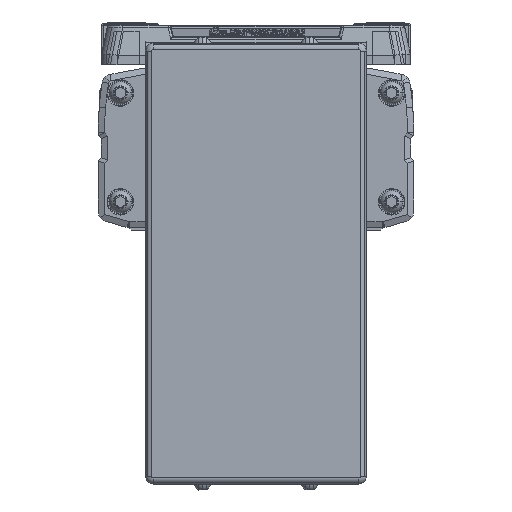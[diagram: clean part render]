
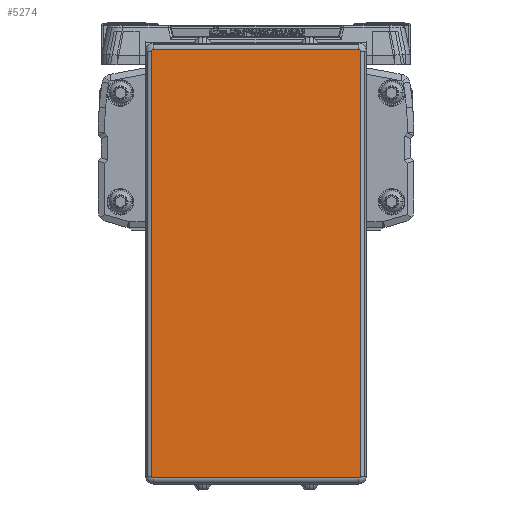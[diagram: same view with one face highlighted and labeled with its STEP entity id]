
A CAD part, left-side view. The second image highlights one B-rep face of the part: STEP entity #5274.
In plain terms, the highlighted planar face has unit normal (-1, 0, 0).
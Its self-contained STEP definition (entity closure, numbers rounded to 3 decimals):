
#5274=ADVANCED_FACE('',(#11322),#11323,.F.);
#11322=FACE_OUTER_BOUND('',#18589,.T.);
#11323=PLANE('',#18590);
#18589=EDGE_LOOP('',(#33726,#33727,#33728,#33729,#33730,#33731,#33732,#33733));
#18590=AXIS2_PLACEMENT_3D('',#33734,#33735,#33736);
#33726=ORIENTED_EDGE('',*,*,#45593,.T.);
#33727=ORIENTED_EDGE('',*,*,#47355,.T.);
#33728=ORIENTED_EDGE('',*,*,#45399,.T.);
#33729=ORIENTED_EDGE('',*,*,#47356,.T.);
#33730=ORIENTED_EDGE('',*,*,#44988,.T.);
#33731=ORIENTED_EDGE('',*,*,#46040,.T.);
#33732=ORIENTED_EDGE('',*,*,#41849,.T.);
#33733=ORIENTED_EDGE('',*,*,#47357,.T.);
#33734=CARTESIAN_POINT('',(-616.0,0.,-41.6));
#33735=DIRECTION('',(1.0,0.,0.));
#33736=DIRECTION('',(0.,0.,1.0));
#41849=EDGE_CURVE('',#50103,#50101,#50104,.T.);
#44988=EDGE_CURVE('',#55272,#55270,#55273,.T.);
#45399=EDGE_CURVE('',#55881,#55879,#55882,.T.);
#45593=EDGE_CURVE('',#56159,#56157,#56160,.T.);
#46040=EDGE_CURVE('',#55270,#50103,#56806,.T.);
#47355=EDGE_CURVE('',#56157,#55881,#58546,.T.);
#47356=EDGE_CURVE('',#55879,#55272,#58547,.T.);
#47357=EDGE_CURVE('',#50101,#56159,#58548,.T.);
#50101=VERTEX_POINT('',#61959);
#50103=VERTEX_POINT('',#61961);
#50104=LINE('',#61962,#61963);
#55270=VERTEX_POINT('',#69113);
#55272=VERTEX_POINT('',#69115);
#55273=LINE('',#69116,#69117);
#55879=VERTEX_POINT('',#69961);
#55881=VERTEX_POINT('',#69963);
#55882=LINE('',#69964,#69965);
#56157=VERTEX_POINT('',#70361);
#56159=VERTEX_POINT('',#70363);
#56160=LINE('',#70364,#70365);
#56806=CIRCLE('',#71233,0.5);
#58546=CIRCLE('',#73657,0.5);
#58547=CIRCLE('',#73658,0.5);
#58548=CIRCLE('',#73659,0.5);
#61959=CARTESIAN_POINT('',(-616.0,-32.55,-109.5));
#61961=CARTESIAN_POINT('',(-616.0,32.55,-109.5));
#61962=CARTESIAN_POINT('',(-616.0,0.,-109.5));
#61963=VECTOR('',#76998,10.0);
#69113=CARTESIAN_POINT('',(-616.0,33.05,-109.));
#69115=CARTESIAN_POINT('',(-616.,33.05,25.8));
#69116=CARTESIAN_POINT('',(-616.0,33.05,-41.6));
#69117=VECTOR('',#81281,10.0);
#69961=CARTESIAN_POINT('',(-616.,32.55,26.3));
#69963=CARTESIAN_POINT('',(-616.,-32.55,26.3));
#69964=CARTESIAN_POINT('',(-616.,0.,26.3));
#69965=VECTOR('',#81850,10.0);
#70361=CARTESIAN_POINT('',(-616.,-33.05,25.8));
#70363=CARTESIAN_POINT('',(-616.0,-33.05,-109.));
#70364=CARTESIAN_POINT('',(-616.,-33.05,-41.6));
#70365=VECTOR('',#82091,10.0);
#71233=AXIS2_PLACEMENT_3D('',#82747,#82748,#82749);
#73657=AXIS2_PLACEMENT_3D('',#84445,#84446,#84447);
#73658=AXIS2_PLACEMENT_3D('',#84448,#84449,#84450);
#73659=AXIS2_PLACEMENT_3D('',#84451,#84452,#84453);
#76998=DIRECTION('',(0.,-1.0,0.));
#81281=DIRECTION('',(0.,0.,-1.0));
#81850=DIRECTION('',(0.,1.0,0.));
#82091=DIRECTION('',(0.,0.,1.0));
#82747=CARTESIAN_POINT('',(-616.0,32.55,-109.));
#82748=DIRECTION('',(-1.0,0.,0.));
#82749=DIRECTION('',(0.,0.707,-0.707));
#84445=CARTESIAN_POINT('',(-616.,-32.55,25.8));
#84446=DIRECTION('',(-1.0,0.,0.));
#84447=DIRECTION('',(0.,-0.707,0.707));
#84448=CARTESIAN_POINT('',(-616.,32.55,25.8));
#84449=DIRECTION('',(-1.0,0.,0.));
#84450=DIRECTION('',(0.,0.707,0.707));
#84451=CARTESIAN_POINT('',(-616.0,-32.55,-109.));
#84452=DIRECTION('',(-1.0,0.,0.));
#84453=DIRECTION('',(0.,-0.707,-0.707));
